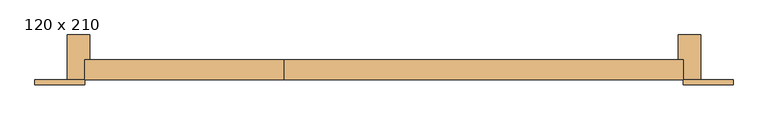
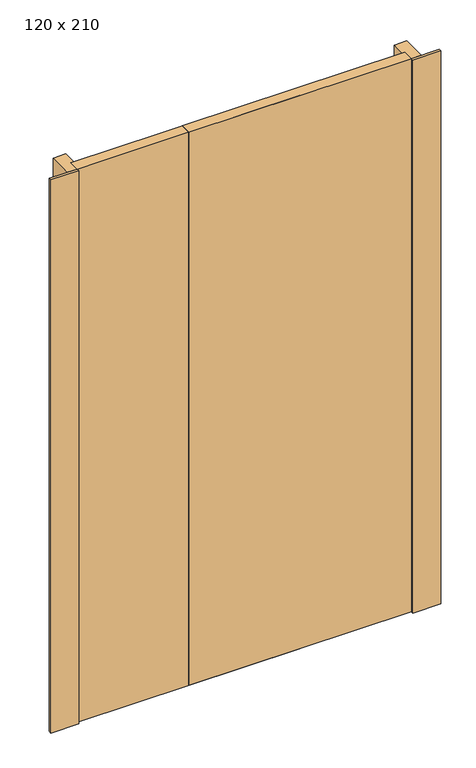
"""IFC4 building model written with IfcOpenShell, lengths in millimetres: door geometry, PORTÃO DE ABRIR - 2 FOLHAS : 120 x 210."""

from ifc_helpers import new_model, si_unit, origin, origin_with_axes, place, context, project, spatial, polyline, outline, extrude, source, transform, mapped, element, save


def door_120_x_210_62fe1f09(model_context):
    return source(origin(), model_context, "Body", "SweptSolid", [
        extrude(outline(polyline([(-140.0, -75.0), (-140.0, -35.0), (660.0, -35.0), (660.0, -75.0), (-140.0, -75.0)])), origin_with_axes(), (0.0, 0.0, 1.0), 2100.0),
        extrude(outline(polyline([(260.0, -75.0), (-540.0, -75.0), (-540.0, -35.0), (260.0, -35.0), (260.0, -75.0)])), origin_with_axes(), (0.0, 0.0, 1.0), 2100.0),
        extrude(outline(polyline([(760.0, -85.0), (660.0, -85.0), (660.0, -75.0), (760.0, -75.0), (760.0, -85.0)])), origin_with_axes(), (0.0, 0.0, 1.0), 2100.0),
        extrude(outline(polyline([(-540.0, -85.0), (-640.0, -85.0), (-640.0, -75.0), (-540.0, -75.0), (-540.0, -85.0)])), origin_with_axes(), (0.0, 0.0, 1.0), 2100.0),
        extrude(outline(polyline([(-575.0, 15.0), (-530.0, 15.0), (-530.0, -35.0), (-540.0, -35.0), (-540.0, -75.0), (-575.0, -75.0), (-575.0, 15.0)])), origin_with_axes(), (0.0, 0.0, 1.0), 2100.0),
        extrude(outline(polyline([(695.0, 15.0), (695.0, -75.0), (660.0, -75.0), (660.0, -35.0), (650.0, -35.0), (650.0, 15.0), (695.0, 15.0)])), origin_with_axes(), (0.0, 0.0, 1.0), 2100.0),
    ])


if __name__ == "__main__":
    model = new_model("IFC4")
    model_context = context("Model", 3, world=origin())
    ifc_project = project(units=[si_unit("LENGTHUNIT", "METRE", prefix="MILLI")], contexts=[model_context])
    site = spatial("IfcSite", under=ifc_project)
    building = spatial("IfcBuilding", under=site)
    placement = place(None, origin())
    door_120_x_210_shape = door_120_x_210_62fe1f09(model_context)
    element("IfcDoor", 1, ObjectType="PORTÃO DE ABRIR - 2 FOLHAS : 120 x 210", at=placement, inside=building, context=model_context, shape_type="MappedRepresentation", body=[
        mapped(door_120_x_210_shape, transform((0.0, 0.0, 0.0), x_axis=(1.0, 0.0, 0.0), y_axis=(0.0, 1.0, 0.0), z_axis=(0.0, 0.0, 1.0))),
    ])
    save(model, "model.ifc")
